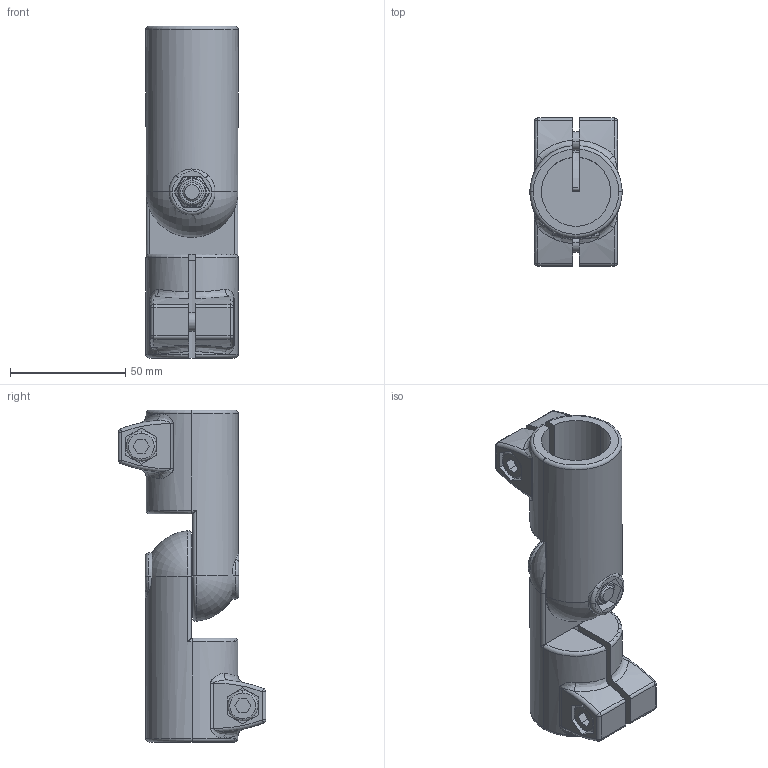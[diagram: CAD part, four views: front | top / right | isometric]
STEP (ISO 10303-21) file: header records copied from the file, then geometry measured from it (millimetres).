
FILE_DESCRIPTION (( 'STEP AP214' ), '1' );
FILE_NAME ('286-B30-B30-T-2-SW.step', '2021-12-02T12:14:25', ( '' ), ( '' ), 'SwSTEP 2.0', 'SolidWorks 2019', '' );
FILE_SCHEMA (( 'AUTOMOTIVE_DESIGN' ));
Length unit declared in the file: millimetre
Products named in the file (3): WB276^WB286_B30-IV-2-SW; WB276_1^WB286_B30-AV-2-SW; 286-B30-B30-T-2-SW
Assembly tree (2 placements, depth 2):
  286-B30-B30-T-2-SW
    WB276^WB286_B30-IV-2-SW
    WB276_1^WB286_B30-AV-2-SW
Bounding box: 40 x 64 x 144 mm (x, y, z)
Volume: 116811.8 mm3; surface area: 44582.8 mm2
Topology: 2 solids, 2 shells, 514 faces, 1304 edges, 814 vertices
Faces by surface type: plane 304, cylinder 108, torus 50, cone 24, bspline 20, sphere 8
Entity records: 19158 total; most frequent: CARTESIAN_POINT 5891, ORIENTED_EDGE 2592, DIRECTION 2422, EDGE_CURVE 1296, AXIS2_PLACEMENT_3D 931, VERTEX_POINT 814, LINE 560, VECTOR 560
